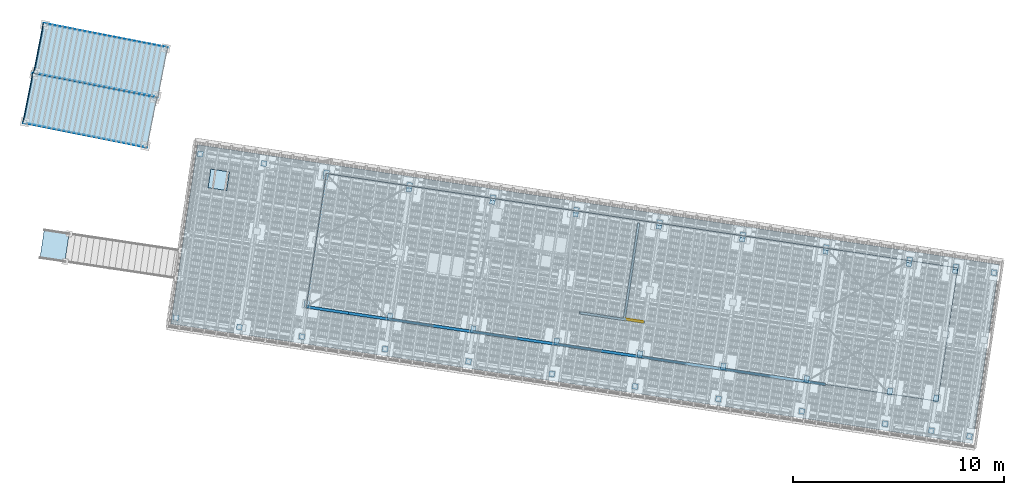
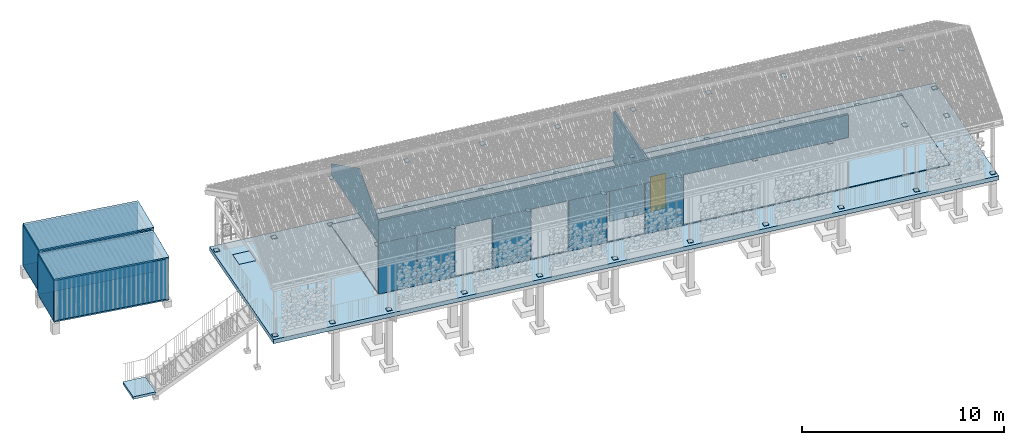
# One storey, part 121 of 131: 50 plates, 7 slabs, 7 walls, 1 door, 3 openings, 5 elements without a shape of their own.
"""IFC4 building model written with IfcOpenShell, lengths in metres."""

from ifc_helpers import new_model, si_unit, direction, frame, origin_with_axes, place, context, subcontext, project, spatial, polyline, outline, extrude, material, layer, layer_set, constituent, constituent_set, element, fill, aggregate, save


model = new_model("IFC4")

# Units and contexts
model_context = context("Model", 3, precision=1e-05, world=origin_with_axes(), true_north=direction((0.0, 1.0)))
body_context = subcontext(model_context, "Body", "Model", "MODEL_VIEW")
ifc_project = project(units=[si_unit("VOLUMEUNIT", "CUBIC_METRE"), si_unit("LENGTHUNIT", "METRE"), si_unit("AREAUNIT", "SQUARE_METRE")], contexts=[model_context])

# Site, building, storey
site_placement = place(None, origin_with_axes())
site = spatial("IfcSite", under=ifc_project, at=site_placement, Name="Lares · Rua das Mercês · artigo 4771")
building_placement = place(site_placement, frame((15.0, 9.7, 15.8), z_axis=(0.0, 0.0, 1.0), x_axis=(0.989015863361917, -0.147809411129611, 0.0)))
building = spatial("IfcBuilding", under=site, at=building_placement, Name="Casa Sobreposta")
storey_placement = place(building_placement, origin_with_axes())
storey = spatial("IfcBuildingStorey", under=building, at=storey_placement, Name="00 · Habitação e estacionamento", Elevation=15.8)

# Plates
ifc_material_1 = material(Name="Aço galvanizado / Stahl verzinkt", Category="steel")
plate_1_placement = place(storey_placement, frame((0.0, 0.0, 2.89), z_axis=(0.0, 0.0, 1.0), x_axis=(1.0, 0.0, 0.0)))
element("IfcPlate", 1, at=plate_1_placement, inside=storey, material=ifc_material_1, Name="Cobertura · ligação madeira aço", PredefinedType="SHEET", context=body_context, shape_type="SweptSolid", body=[
    extrude(outline(polyline([(0.12, -0.04), (0.12, 0.28), (-0.12, 0.28), (-0.12, -0.04), (0.12, -0.04)])), origin_with_axes(), (0.0, 0.0, 1.0), 0.012),
])
plate_2_placement = place(storey_placement, frame((0.0, 0.0, 2.89), z_axis=(0.0, 0.0, 1.0), x_axis=(1.0, 0.0, 0.0)))
element("IfcPlate", 2, at=plate_2_placement, inside=storey, material=ifc_material_1, Name="Cobertura · ligação madeira aço", PredefinedType="SHEET", context=body_context, shape_type="SweptSolid", body=[
    extrude(outline(polyline([(0.12, 6.12), (0.12, 6.44), (-0.12, 6.44), (-0.12, 6.12), (0.12, 6.12)])), origin_with_axes(), (0.0, 0.0, 1.0), 0.012),
])
plate_3_placement = place(storey_placement, frame((0.0, 0.0, 2.89), z_axis=(0.0, 0.0, 1.0), x_axis=(1.0, 0.0, 0.0)))
element("IfcPlate", 3, at=plate_3_placement, inside=storey, material=ifc_material_1, Name="Cobertura · ligação madeira aço", PredefinedType="SHEET", context=body_context, shape_type="SweptSolid", body=[
    extrude(outline(polyline([(4.12, -0.04), (4.12, 0.28), (3.88, 0.28), (3.88, -0.04), (4.12, -0.04)])), origin_with_axes(), (0.0, 0.0, 1.0), 0.012),
])
plate_4_placement = place(storey_placement, frame((0.0, 0.0, 2.89), z_axis=(0.0, 0.0, 1.0), x_axis=(1.0, 0.0, 0.0)))
element("IfcPlate", 4, at=plate_4_placement, inside=storey, material=ifc_material_1, Name="Cobertura · ligação madeira aço", PredefinedType="SHEET", context=body_context, shape_type="SweptSolid", body=[
    extrude(outline(polyline([(4.12, 6.12), (4.12, 6.44), (3.88, 6.44), (3.88, 6.12), (4.12, 6.12)])), origin_with_axes(), (0.0, 0.0, 1.0), 0.012),
])
plate_5_placement = place(storey_placement, frame((0.0, 0.0, 2.89), z_axis=(0.0, 0.0, 1.0), x_axis=(1.0, 0.0, 0.0)))
element("IfcPlate", 5, at=plate_5_placement, inside=storey, material=ifc_material_1, Name="Cobertura · ligação madeira aço", PredefinedType="SHEET", context=body_context, shape_type="SweptSolid", body=[
    extrude(outline(polyline([(8.12, -0.04), (8.12, 0.28), (7.88, 0.28), (7.88, -0.04), (8.12, -0.04)])), origin_with_axes(), (0.0, 0.0, 1.0), 0.012),
])
plate_6_placement = place(storey_placement, frame((0.0, 0.0, 2.89), z_axis=(0.0, 0.0, 1.0), x_axis=(1.0, 0.0, 0.0)))
element("IfcPlate", 6, at=plate_6_placement, inside=storey, material=ifc_material_1, Name="Cobertura · ligação madeira aço", PredefinedType="SHEET", context=body_context, shape_type="SweptSolid", body=[
    extrude(outline(polyline([(8.12, 6.12), (8.12, 6.44), (7.88, 6.44), (7.88, 6.12), (8.12, 6.12)])), origin_with_axes(), (0.0, 0.0, 1.0), 0.012),
])
plate_7_placement = place(storey_placement, frame((0.0, 0.0, 2.89), z_axis=(0.0, 0.0, 1.0), x_axis=(1.0, 0.0, 0.0)))
element("IfcPlate", 7, at=plate_7_placement, inside=storey, material=ifc_material_1, Name="Cobertura · ligação madeira aço", PredefinedType="SHEET", context=body_context, shape_type="SweptSolid", body=[
    extrude(outline(polyline([(12.12, -0.04), (12.12, 0.28), (11.88, 0.28), (11.88, -0.04), (12.12, -0.04)])), origin_with_axes(), (0.0, 0.0, 1.0), 0.012),
])
plate_8_placement = place(storey_placement, frame((0.0, 0.0, 2.89), z_axis=(0.0, 0.0, 1.0), x_axis=(1.0, 0.0, 0.0)))
element("IfcPlate", 8, at=plate_8_placement, inside=storey, material=ifc_material_1, Name="Cobertura · ligação madeira aço", PredefinedType="SHEET", context=body_context, shape_type="SweptSolid", body=[
    extrude(outline(polyline([(12.12, 6.12), (12.12, 6.44), (11.88, 6.44), (11.88, 6.12), (12.12, 6.12)])), origin_with_axes(), (0.0, 0.0, 1.0), 0.012),
])
plate_9_placement = place(storey_placement, frame((0.0, 0.0, 2.89), z_axis=(0.0, 0.0, 1.0), x_axis=(1.0, 0.0, 0.0)))
element("IfcPlate", 9, at=plate_9_placement, inside=storey, material=ifc_material_1, Name="Cobertura · ligação madeira aço", PredefinedType="SHEET", context=body_context, shape_type="SweptSolid", body=[
    extrude(outline(polyline([(16.12, -0.04), (16.12, 0.28), (15.88, 0.28), (15.88, -0.04), (16.12, -0.04)])), origin_with_axes(), (0.0, 0.0, 1.0), 0.012),
])
plate_10_placement = place(storey_placement, frame((0.0, 0.0, 2.89), z_axis=(0.0, 0.0, 1.0), x_axis=(1.0, 0.0, 0.0)))
element("IfcPlate", 10, at=plate_10_placement, inside=storey, material=ifc_material_1, Name="Cobertura · ligação madeira aço", PredefinedType="SHEET", context=body_context, shape_type="SweptSolid", body=[
    extrude(outline(polyline([(16.12, 6.12), (16.12, 6.44), (15.88, 6.44), (15.88, 6.12), (16.12, 6.12)])), origin_with_axes(), (0.0, 0.0, 1.0), 0.012),
])
plate_11_placement = place(storey_placement, frame((0.0, 0.0, 2.89), z_axis=(0.0, 0.0, 1.0), x_axis=(1.0, 0.0, 0.0)))
element("IfcPlate", 11, at=plate_11_placement, inside=storey, material=ifc_material_1, Name="Cobertura · ligação madeira aço", PredefinedType="SHEET", context=body_context, shape_type="SweptSolid", body=[
    extrude(outline(polyline([(20.12, -0.04), (20.12, 0.28), (19.88, 0.28), (19.88, -0.04), (20.12, -0.04)])), origin_with_axes(), (0.0, 0.0, 1.0), 0.012),
])
plate_12_placement = place(storey_placement, frame((0.0, 0.0, 2.89), z_axis=(0.0, 0.0, 1.0), x_axis=(1.0, 0.0, 0.0)))
element("IfcPlate", 12, at=plate_12_placement, inside=storey, material=ifc_material_1, Name="Cobertura · ligação madeira aço", PredefinedType="SHEET", context=body_context, shape_type="SweptSolid", body=[
    extrude(outline(polyline([(20.12, 6.12), (20.12, 6.44), (19.88, 6.44), (19.88, 6.12), (20.12, 6.12)])), origin_with_axes(), (0.0, 0.0, 1.0), 0.012),
])
plate_13_placement = place(storey_placement, frame((0.0, 0.0, 2.89), z_axis=(0.0, 0.0, 1.0), x_axis=(1.0, 0.0, 0.0)))
element("IfcPlate", 13, at=plate_13_placement, inside=storey, material=ifc_material_1, Name="Cobertura · ligação madeira aço", PredefinedType="SHEET", context=body_context, shape_type="SweptSolid", body=[
    extrude(outline(polyline([(24.12, -0.04), (24.12, 0.28), (23.88, 0.28), (23.88, -0.04), (24.12, -0.04)])), origin_with_axes(), (0.0, 0.0, 1.0), 0.012),
])
plate_14_placement = place(storey_placement, frame((0.0, 0.0, 2.89), z_axis=(0.0, 0.0, 1.0), x_axis=(1.0, 0.0, 0.0)))
element("IfcPlate", 14, at=plate_14_placement, inside=storey, material=ifc_material_1, Name="Cobertura · ligação madeira aço", PredefinedType="SHEET", context=body_context, shape_type="SweptSolid", body=[
    extrude(outline(polyline([(24.12, 6.12), (24.12, 6.44), (23.88, 6.44), (23.88, 6.12), (24.12, 6.12)])), origin_with_axes(), (0.0, 0.0, 1.0), 0.012),
])
plate_15_placement = place(storey_placement, frame((0.0, 0.0, 2.89), z_axis=(0.0, 0.0, 1.0), x_axis=(1.0, 0.0, 0.0)))
element("IfcPlate", 15, at=plate_15_placement, inside=storey, material=ifc_material_1, Name="Cobertura · ligação madeira aço", PredefinedType="SHEET", context=body_context, shape_type="SweptSolid", body=[
    extrude(outline(polyline([(28.12, -0.04), (28.12, 0.28), (27.88, 0.28), (27.88, -0.04), (28.12, -0.04)])), origin_with_axes(), (0.0, 0.0, 1.0), 0.012),
])
plate_16_placement = place(storey_placement, frame((0.0, 0.0, 2.89), z_axis=(0.0, 0.0, 1.0), x_axis=(1.0, 0.0, 0.0)))
element("IfcPlate", 16, at=plate_16_placement, inside=storey, material=ifc_material_1, Name="Cobertura · ligação madeira aço", PredefinedType="SHEET", context=body_context, shape_type="SweptSolid", body=[
    extrude(outline(polyline([(28.12, 6.12), (28.12, 6.44), (27.88, 6.44), (27.88, 6.12), (28.12, 6.12)])), origin_with_axes(), (0.0, 0.0, 1.0), 0.012),
])
plate_17_placement = place(storey_placement, frame((0.0, 0.0, 2.89), z_axis=(0.0, 0.0, 1.0), x_axis=(1.0, 0.0, 0.0)))
element("IfcPlate", 17, at=plate_17_placement, inside=storey, material=ifc_material_1, Name="Cobertura · ligação madeira aço", PredefinedType="SHEET", context=body_context, shape_type="SweptSolid", body=[
    extrude(outline(polyline([(30.34, -0.04), (30.34, 0.28), (30.1, 0.28), (30.1, -0.04), (30.34, -0.04)])), origin_with_axes(), (0.0, 0.0, 1.0), 0.012),
])
plate_18_placement = place(storey_placement, frame((0.0, 0.0, 2.89), z_axis=(0.0, 0.0, 1.0), x_axis=(1.0, 0.0, 0.0)))
element("IfcPlate", 18, at=plate_18_placement, inside=storey, material=ifc_material_1, Name="Cobertura · ligação madeira aço", PredefinedType="SHEET", context=body_context, shape_type="SweptSolid", body=[
    extrude(outline(polyline([(30.34, 6.12), (30.34, 6.44), (30.1, 6.44), (30.1, 6.12), (30.34, 6.12)])), origin_with_axes(), (0.0, 0.0, 1.0), 0.012),
])
ifc_material_2 = material(Name="Vidro / Normalglas", Category="glass")
plate_19_placement = place(storey_placement, frame((0.0, 0.0, 0.0), z_axis=(1.0, 0.0, 0.0), x_axis=(0.0, 1.0, 0.0)))
element("IfcPlate", 19, at=plate_19_placement, inside=storey, material=ifc_material_2, Name="Empena poente envidraçada", PredefinedType="SHEET", context=body_context, shape_type="SweptSolid", body=[
    extrude(outline(polyline([(0.0, 3.05), (6.4, 3.05), (6.4, 3.66641016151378), (2.55, 5.88920869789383), (0.0, 4.41696551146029), (0.0, 3.05)])), origin_with_axes(), (0.0, 0.0, 1.0), 0.02),
])

# Assembly, slabs, opening, plate
assembly_1_placement = place(storey_placement, origin_with_axes())
assembly_1 = element("IfcElementAssembly", 20, at=assembly_1_placement, inside=storey, Name="Pódio · terraço, casa térrea e cisterna", ObjectType="CISTERN_PODIUM", PredefinedType="USERDEFINED")
ifc_material_3 = material(Name="Betão armado / Stahlbeton", Category="concrete")
slab_1_placement = place(assembly_1_placement, frame((0.0, 0.0, -0.25), z_axis=(0.0, 0.0, 1.0), x_axis=(1.0, 0.0, 0.0)))
slab_1 = element("IfcSlab", 21, at=slab_1_placement, material=ifc_material_3, Name="Pódio · laje da casa 250 mm", PredefinedType="FLOOR", context=body_context, shape_type="SweptSolid", body=[
    extrude(outline(polyline([(30.32, 0.0), (30.32, 6.4), (0.0, 6.4), (0.0, 0.0), (30.32, 0.0)])), origin_with_axes(), (0.0, 0.0, 1.0), 0.25),
])
slab_2_placement = place(assembly_1_placement, frame((0.0, 0.0, -0.29), z_axis=(0.0, 0.0, 1.0), x_axis=(1.0, 0.0, 0.0)))
slab_2 = element("IfcSlab", 22, at=slab_2_placement, material=ifc_material_3, Name="Pódio · terraço e faixa de proteção sul", PredefinedType="FLOOR", context=body_context, shape_type="SweptSolid", body=[
    extrude(outline(polyline([(-6.25, -1.75), (-6.25, 6.85), (32.25, 6.85), (32.25, -1.75), (-6.25, -1.75)]), holes=[polyline([(30.32, 6.4), (0.0, 6.4), (0.0, 0.0), (30.32, 0.0), (30.32, 6.4)])]), origin_with_axes(), (0.0, 0.0, 1.0), 0.25),
])
opening_1_placement = place(slab_2_placement, frame((0.0, 0.0, -0.06), z_axis=(0.0, 0.0, 1.0), x_axis=(1.0, 0.0, 0.0)))
element("IfcOpeningElement", 23, at=opening_1_placement, cuts=slab_2, Name="Cisterna · abertura de inspeção", PredefinedType="OPENING", context=body_context, shape_type="SweptSolid", body=[
    extrude(outline(polyline([(-4.55, 4.9), (-4.55, 5.8), (-5.45, 5.8), (-5.45, 4.9), (-4.55, 4.9)])), origin_with_axes(), (0.0, 0.0, 1.0), 0.4),
])
plate_20_placement = place(assembly_1_placement, frame((0.0, 0.0, -0.085), z_axis=(0.0, 0.0, 1.0), x_axis=(1.0, 0.0, 0.0)))
plate_20 = element("IfcPlate", 24, at=plate_20_placement, material=ifc_material_1, Name="Cisterna · tampa estanque de inspeção", PredefinedType="SHEET", context=body_context, shape_type="SweptSolid", body=[
    extrude(outline(polyline([(-4.55, 4.9), (-4.55, 5.8), (-5.45, 5.8), (-5.45, 4.9), (-4.55, 4.9)])), origin_with_axes(), (0.0, 0.0, 1.0), 0.045),
])
aggregate(assembly_1, [slab_1, slab_2, plate_20])

# Stair, slab
stair_placement = place(storey_placement, origin_with_axes())
stair = element("IfcStair", 25, at=stair_placement, inside=storey, Name="Jardim · escada pela fachada poente", PredefinedType="STRAIGHT_RUN_STAIR")
slab_3_placement = place(stair_placement, frame((0.0, 0.0, -3.35), z_axis=(0.0, 0.0, 1.0), x_axis=(1.0, 0.0, 0.0)))
slab_3 = element("IfcSlab", 26, at=slab_3_placement, material=ifc_material_3, Name="Jardim · patamar poente", PredefinedType="LANDING", context=body_context, shape_type="SweptSolid", body=[
    extrude(outline(polyline([(-11.65, 0.4), (-11.65, 1.8), (-12.85, 1.8), (-12.85, 0.4), (-11.65, 0.4)])), origin_with_axes(), (0.0, 0.0, 1.0), 0.15),
])
aggregate(stair, [slab_3])

# Assembly, plates
assembly_2_placement = place(storey_placement, origin_with_axes())
assembly_2 = element("IfcElementAssembly", 27, at=assembly_2_placement, inside=storey, Name="Varanda coberta · continuação integral da cobertura", ObjectType="COVERED_PODIUM_BALCONY", PredefinedType="USERDEFINED")
plate_21_placement = place(assembly_2_placement, frame((0.0, 0.0, -0.04), z_axis=(0.0, 0.0, 1.0), x_axis=(1.0, 0.0, 0.0)))
plate_21 = element("IfcPlate", 28, at=plate_21_placement, material=ifc_material_1, Name="Varanda coberta · base metálica", PredefinedType="SHEET", context=body_context, shape_type="SweptSolid", body=[
    extrude(outline(polyline([(-5.92, -1.56), (-5.92, -1.3), (-6.18, -1.3), (-6.18, -1.56), (-5.92, -1.56)])), origin_with_axes(), (0.0, 0.0, 1.0), 0.025),
])
plate_22_placement = place(assembly_2_placement, frame((0.0, 0.0, -0.04), z_axis=(0.0, 0.0, 1.0), x_axis=(1.0, 0.0, 0.0)))
plate_22 = element("IfcPlate", 29, at=plate_22_placement, material=ifc_material_1, Name="Varanda coberta · base metálica", PredefinedType="SHEET", context=body_context, shape_type="SweptSolid", body=[
    extrude(outline(polyline([(-5.92, 6.3), (-5.92, 6.56), (-6.18, 6.56), (-6.18, 6.3), (-5.92, 6.3)])), origin_with_axes(), (0.0, 0.0, 1.0), 0.025),
])
plate_23_placement = place(assembly_2_placement, frame((0.0, 0.0, -0.04), z_axis=(0.0, 0.0, 1.0), x_axis=(1.0, 0.0, 0.0)))
plate_23 = element("IfcPlate", 30, at=plate_23_placement, material=ifc_material_1, Name="Varanda coberta · base metálica", PredefinedType="SHEET", context=body_context, shape_type="SweptSolid", body=[
    extrude(outline(polyline([(-2.87, -1.56), (-2.87, -1.3), (-3.13, -1.3), (-3.13, -1.56), (-2.87, -1.56)])), origin_with_axes(), (0.0, 0.0, 1.0), 0.025),
])
plate_24_placement = place(assembly_2_placement, frame((0.0, 0.0, -0.04), z_axis=(0.0, 0.0, 1.0), x_axis=(1.0, 0.0, 0.0)))
plate_24 = element("IfcPlate", 31, at=plate_24_placement, material=ifc_material_1, Name="Varanda coberta · base metálica", PredefinedType="SHEET", context=body_context, shape_type="SweptSolid", body=[
    extrude(outline(polyline([(-2.87, 6.3), (-2.87, 6.56), (-3.13, 6.56), (-3.13, 6.3), (-2.87, 6.3)])), origin_with_axes(), (0.0, 0.0, 1.0), 0.025),
])
plate_25_placement = place(assembly_2_placement, frame((0.0, 0.0, -0.04), z_axis=(0.0, 0.0, 1.0), x_axis=(1.0, 0.0, 0.0)))
plate_25 = element("IfcPlate", 32, at=plate_25_placement, material=ifc_material_1, Name="Varanda coberta · base metálica", PredefinedType="SHEET", context=body_context, shape_type="SweptSolid", body=[
    extrude(outline(polyline([(0.13, -1.56), (0.13, -1.3), (-0.13, -1.3), (-0.13, -1.56), (0.13, -1.56)])), origin_with_axes(), (0.0, 0.0, 1.0), 0.025),
])
plate_26_placement = place(assembly_2_placement, frame((0.0, 0.0, -0.04), z_axis=(0.0, 0.0, 1.0), x_axis=(1.0, 0.0, 0.0)))
plate_26 = element("IfcPlate", 33, at=plate_26_placement, material=ifc_material_1, Name="Varanda coberta · base metálica", PredefinedType="SHEET", context=body_context, shape_type="SweptSolid", body=[
    extrude(outline(polyline([(0.13, 6.3), (0.13, 6.56), (-0.13, 6.56), (-0.13, 6.3), (0.13, 6.3)])), origin_with_axes(), (0.0, 0.0, 1.0), 0.025),
])
plate_27_placement = place(assembly_2_placement, frame((0.0, 0.0, -0.04), z_axis=(0.0, 0.0, 1.0), x_axis=(1.0, 0.0, 0.0)))
plate_27 = element("IfcPlate", 34, at=plate_27_placement, material=ifc_material_1, Name="Varanda coberta · base metálica", PredefinedType="SHEET", context=body_context, shape_type="SweptSolid", body=[
    extrude(outline(polyline([(4.13, -1.56), (4.13, -1.3), (3.87, -1.3), (3.87, -1.56), (4.13, -1.56)])), origin_with_axes(), (0.0, 0.0, 1.0), 0.025),
])
plate_28_placement = place(assembly_2_placement, frame((0.0, 0.0, -0.04), z_axis=(0.0, 0.0, 1.0), x_axis=(1.0, 0.0, 0.0)))
plate_28 = element("IfcPlate", 35, at=plate_28_placement, material=ifc_material_1, Name="Varanda coberta · base metálica", PredefinedType="SHEET", context=body_context, shape_type="SweptSolid", body=[
    extrude(outline(polyline([(4.13, 6.3), (4.13, 6.56), (3.87, 6.56), (3.87, 6.3), (4.13, 6.3)])), origin_with_axes(), (0.0, 0.0, 1.0), 0.025),
])
plate_29_placement = place(assembly_2_placement, frame((0.0, 0.0, -0.04), z_axis=(0.0, 0.0, 1.0), x_axis=(1.0, 0.0, 0.0)))
plate_29 = element("IfcPlate", 36, at=plate_29_placement, material=ifc_material_1, Name="Varanda coberta · base metálica", PredefinedType="SHEET", context=body_context, shape_type="SweptSolid", body=[
    extrude(outline(polyline([(8.13, -1.56), (8.13, -1.3), (7.87, -1.3), (7.87, -1.56), (8.13, -1.56)])), origin_with_axes(), (0.0, 0.0, 1.0), 0.025),
])
plate_30_placement = place(assembly_2_placement, frame((0.0, 0.0, -0.04), z_axis=(0.0, 0.0, 1.0), x_axis=(1.0, 0.0, 0.0)))
plate_30 = element("IfcPlate", 37, at=plate_30_placement, material=ifc_material_1, Name="Varanda coberta · base metálica", PredefinedType="SHEET", context=body_context, shape_type="SweptSolid", body=[
    extrude(outline(polyline([(8.13, 6.3), (8.13, 6.56), (7.87, 6.56), (7.87, 6.3), (8.13, 6.3)])), origin_with_axes(), (0.0, 0.0, 1.0), 0.025),
])
plate_31_placement = place(assembly_2_placement, frame((0.0, 0.0, -0.04), z_axis=(0.0, 0.0, 1.0), x_axis=(1.0, 0.0, 0.0)))
plate_31 = element("IfcPlate", 38, at=plate_31_placement, material=ifc_material_1, Name="Varanda coberta · base metálica", PredefinedType="SHEET", context=body_context, shape_type="SweptSolid", body=[
    extrude(outline(polyline([(12.13, -1.56), (12.13, -1.3), (11.87, -1.3), (11.87, -1.56), (12.13, -1.56)])), origin_with_axes(), (0.0, 0.0, 1.0), 0.025),
])
plate_32_placement = place(assembly_2_placement, frame((0.0, 0.0, -0.04), z_axis=(0.0, 0.0, 1.0), x_axis=(1.0, 0.0, 0.0)))
plate_32 = element("IfcPlate", 39, at=plate_32_placement, material=ifc_material_1, Name="Varanda coberta · base metálica", PredefinedType="SHEET", context=body_context, shape_type="SweptSolid", body=[
    extrude(outline(polyline([(12.13, 6.3), (12.13, 6.56), (11.87, 6.56), (11.87, 6.3), (12.13, 6.3)])), origin_with_axes(), (0.0, 0.0, 1.0), 0.025),
])
plate_33_placement = place(assembly_2_placement, frame((0.0, 0.0, -0.04), z_axis=(0.0, 0.0, 1.0), x_axis=(1.0, 0.0, 0.0)))
plate_33 = element("IfcPlate", 40, at=plate_33_placement, material=ifc_material_1, Name="Varanda coberta · base metálica", PredefinedType="SHEET", context=body_context, shape_type="SweptSolid", body=[
    extrude(outline(polyline([(16.13, -1.56), (16.13, -1.3), (15.87, -1.3), (15.87, -1.56), (16.13, -1.56)])), origin_with_axes(), (0.0, 0.0, 1.0), 0.025),
])
plate_34_placement = place(assembly_2_placement, frame((0.0, 0.0, -0.04), z_axis=(0.0, 0.0, 1.0), x_axis=(1.0, 0.0, 0.0)))
plate_34 = element("IfcPlate", 41, at=plate_34_placement, material=ifc_material_1, Name="Varanda coberta · base metálica", PredefinedType="SHEET", context=body_context, shape_type="SweptSolid", body=[
    extrude(outline(polyline([(16.13, 6.3), (16.13, 6.56), (15.87, 6.56), (15.87, 6.3), (16.13, 6.3)])), origin_with_axes(), (0.0, 0.0, 1.0), 0.025),
])
plate_35_placement = place(assembly_2_placement, frame((0.0, 0.0, -0.04), z_axis=(0.0, 0.0, 1.0), x_axis=(1.0, 0.0, 0.0)))
plate_35 = element("IfcPlate", 42, at=plate_35_placement, material=ifc_material_1, Name="Varanda coberta · base metálica", PredefinedType="SHEET", context=body_context, shape_type="SweptSolid", body=[
    extrude(outline(polyline([(20.13, -1.56), (20.13, -1.3), (19.87, -1.3), (19.87, -1.56), (20.13, -1.56)])), origin_with_axes(), (0.0, 0.0, 1.0), 0.025),
])
plate_36_placement = place(assembly_2_placement, frame((0.0, 0.0, -0.04), z_axis=(0.0, 0.0, 1.0), x_axis=(1.0, 0.0, 0.0)))
plate_36 = element("IfcPlate", 43, at=plate_36_placement, material=ifc_material_1, Name="Varanda coberta · base metálica", PredefinedType="SHEET", context=body_context, shape_type="SweptSolid", body=[
    extrude(outline(polyline([(20.13, 6.3), (20.13, 6.56), (19.87, 6.56), (19.87, 6.3), (20.13, 6.3)])), origin_with_axes(), (0.0, 0.0, 1.0), 0.025),
])
plate_37_placement = place(assembly_2_placement, frame((0.0, 0.0, -0.04), z_axis=(0.0, 0.0, 1.0), x_axis=(1.0, 0.0, 0.0)))
plate_37 = element("IfcPlate", 44, at=plate_37_placement, material=ifc_material_1, Name="Varanda coberta · base metálica", PredefinedType="SHEET", context=body_context, shape_type="SweptSolid", body=[
    extrude(outline(polyline([(24.13, -1.56), (24.13, -1.3), (23.87, -1.3), (23.87, -1.56), (24.13, -1.56)])), origin_with_axes(), (0.0, 0.0, 1.0), 0.025),
])
plate_38_placement = place(assembly_2_placement, frame((0.0, 0.0, -0.04), z_axis=(0.0, 0.0, 1.0), x_axis=(1.0, 0.0, 0.0)))
plate_38 = element("IfcPlate", 45, at=plate_38_placement, material=ifc_material_1, Name="Varanda coberta · base metálica", PredefinedType="SHEET", context=body_context, shape_type="SweptSolid", body=[
    extrude(outline(polyline([(24.13, 6.3), (24.13, 6.56), (23.87, 6.56), (23.87, 6.3), (24.13, 6.3)])), origin_with_axes(), (0.0, 0.0, 1.0), 0.025),
])
plate_39_placement = place(assembly_2_placement, frame((0.0, 0.0, -0.04), z_axis=(0.0, 0.0, 1.0), x_axis=(1.0, 0.0, 0.0)))
plate_39 = element("IfcPlate", 46, at=plate_39_placement, material=ifc_material_1, Name="Varanda coberta · base metálica", PredefinedType="SHEET", context=body_context, shape_type="SweptSolid", body=[
    extrude(outline(polyline([(28.13, -1.56), (28.13, -1.3), (27.87, -1.3), (27.87, -1.56), (28.13, -1.56)])), origin_with_axes(), (0.0, 0.0, 1.0), 0.025),
])
plate_40_placement = place(assembly_2_placement, frame((0.0, 0.0, -0.04), z_axis=(0.0, 0.0, 1.0), x_axis=(1.0, 0.0, 0.0)))
plate_40 = element("IfcPlate", 47, at=plate_40_placement, material=ifc_material_1, Name="Varanda coberta · base metálica", PredefinedType="SHEET", context=body_context, shape_type="SweptSolid", body=[
    extrude(outline(polyline([(28.13, 6.3), (28.13, 6.56), (27.87, 6.56), (27.87, 6.3), (28.13, 6.3)])), origin_with_axes(), (0.0, 0.0, 1.0), 0.025),
])
plate_41_placement = place(assembly_2_placement, frame((0.0, 0.0, -0.04), z_axis=(0.0, 0.0, 1.0), x_axis=(1.0, 0.0, 0.0)))
plate_41 = element("IfcPlate", 48, at=plate_41_placement, material=ifc_material_1, Name="Varanda coberta · base metálica", PredefinedType="SHEET", context=body_context, shape_type="SweptSolid", body=[
    extrude(outline(polyline([(30.35, -1.56), (30.35, -1.3), (30.09, -1.3), (30.09, -1.56), (30.35, -1.56)])), origin_with_axes(), (0.0, 0.0, 1.0), 0.025),
])
plate_42_placement = place(assembly_2_placement, frame((0.0, 0.0, -0.04), z_axis=(0.0, 0.0, 1.0), x_axis=(1.0, 0.0, 0.0)))
plate_42 = element("IfcPlate", 49, at=plate_42_placement, material=ifc_material_1, Name="Varanda coberta · base metálica", PredefinedType="SHEET", context=body_context, shape_type="SweptSolid", body=[
    extrude(outline(polyline([(30.35, 6.3), (30.35, 6.56), (30.09, 6.56), (30.09, 6.3), (30.35, 6.3)])), origin_with_axes(), (0.0, 0.0, 1.0), 0.025),
])
plate_43_placement = place(assembly_2_placement, frame((0.0, 0.0, -0.04), z_axis=(0.0, 0.0, 1.0), x_axis=(1.0, 0.0, 0.0)))
plate_43 = element("IfcPlate", 50, at=plate_43_placement, material=ifc_material_1, Name="Varanda coberta · base metálica", PredefinedType="SHEET", context=body_context, shape_type="SweptSolid", body=[
    extrude(outline(polyline([(32.18, -1.56), (32.18, -1.3), (31.92, -1.3), (31.92, -1.56), (32.18, -1.56)])), origin_with_axes(), (0.0, 0.0, 1.0), 0.025),
])
plate_44_placement = place(assembly_2_placement, frame((0.0, 0.0, -0.04), z_axis=(0.0, 0.0, 1.0), x_axis=(1.0, 0.0, 0.0)))
plate_44 = element("IfcPlate", 51, at=plate_44_placement, material=ifc_material_1, Name="Varanda coberta · base metálica", PredefinedType="SHEET", context=body_context, shape_type="SweptSolid", body=[
    extrude(outline(polyline([(32.18, 6.3), (32.18, 6.56), (31.92, 6.56), (31.92, 6.3), (32.18, 6.3)])), origin_with_axes(), (0.0, 0.0, 1.0), 0.025),
])
aggregate(assembly_2, [plate_21, plate_22, plate_23, plate_24, plate_25, plate_26, plate_27, plate_28, plate_29, plate_30, plate_31, plate_32, plate_33, plate_34, plate_35, plate_36, plate_37, plate_38, plate_39, plate_40, plate_41, plate_42, plate_43, plate_44])

# Assembly, slabs, plates
assembly_3_placement = place(storey_placement, frame((-14.4335953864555, 9.04888612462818, 0.0), z_axis=(0.0, 0.0, 1.0), x_axis=(0.999032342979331, -0.0439815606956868, 0.0)))
assembly_3 = element("IfcElementAssembly", 52, at=assembly_3_placement, inside=storey, Name="Contentor existente 1 · 6 m", ObjectType="EXISTING_SHIPPING_CONTAINER", PredefinedType="USERDEFINED")
ifc_material_4 = material(Name="Contentor · pintura 1", Category="steel")
slab_4_placement = place(assembly_3_placement, frame((0.0, 0.0, -2.16314181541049), z_axis=(0.0, 0.0, 1.0), x_axis=(1.0, 0.0, 0.0)))
slab_4 = element("IfcSlab", 53, at=slab_4_placement, material=ifc_material_4, Name="Contentor · piso ou teto", PredefinedType="FLOOR", context=body_context, shape_type="SweptSolid", body=[
    extrude(outline(polyline([(6.0, 0.0), (6.0, 2.44), (0.0, 2.44), (0.0, 0.0), (6.0, 0.0)])), origin_with_axes(), (0.0, 0.0, 1.0), 0.08),
])
slab_5_placement = place(assembly_3_placement, frame((0.0, 0.0, 0.346858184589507), z_axis=(0.0, 0.0, 1.0), x_axis=(1.0, 0.0, 0.0)))
slab_5 = element("IfcSlab", 54, at=slab_5_placement, material=ifc_material_4, Name="Contentor · piso ou teto", PredefinedType="FLOOR", context=body_context, shape_type="SweptSolid", body=[
    extrude(outline(polyline([(6.0, 0.0), (6.0, 2.44), (0.0, 2.44), (0.0, 0.0), (6.0, 0.0)])), origin_with_axes(), (0.0, 0.0, 1.0), 0.08),
])
plate_45_placement = place(assembly_3_placement, frame((0.0, 0.0, -2.08314181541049), z_axis=(0.0, 0.0, 1.0), x_axis=(1.0, 0.0, 0.0)))
plate_45 = element("IfcPlate", 55, at=plate_45_placement, material=ifc_material_4, Name="Contentor · chapa lateral", context=body_context, shape_type="SweptSolid", body=[
    extrude(outline(polyline([(6.0, 0.0325), (6.0, 0.0075), (0.0, 0.0075), (0.0, 0.0325), (6.0, 0.0325)])), origin_with_axes(), (0.0, 0.0, 1.0), 2.43),
])
plate_46_placement = place(assembly_3_placement, frame((0.0, 0.0, -2.08314181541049), z_axis=(0.0, 0.0, 1.0), x_axis=(1.0, 0.0, 0.0)))
plate_46 = element("IfcPlate", 56, at=plate_46_placement, material=ifc_material_4, Name="Contentor · chapa lateral", context=body_context, shape_type="SweptSolid", body=[
    extrude(outline(polyline([(6.0, 2.4325), (6.0, 2.4075), (0.0, 2.4075), (0.0, 2.4325), (6.0, 2.4325)])), origin_with_axes(), (0.0, 0.0, 1.0), 2.43),
])
plate_47_placement = place(assembly_3_placement, frame((0.0, 0.0, -2.08314181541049), z_axis=(0.0, 0.0, 1.0), x_axis=(1.0, 0.0, 0.0)))
plate_47 = element("IfcPlate", 57, at=plate_47_placement, material=ifc_material_4, Name="Contentor · chapa de fundo", context=body_context, shape_type="SweptSolid", body=[
    extrude(outline(polyline([(-0.025, 2.44), (0.025, 2.44), (0.025, 0.0), (-0.025, 0.0), (-0.025, 2.44)])), origin_with_axes(), (0.0, 0.0, 1.0), 2.43),
])
aggregate(assembly_3, [slab_4, slab_5, plate_45, plate_46, plate_47])

assembly_4_placement = place(storey_placement, frame((-14.5932944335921, 6.63122214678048, 0.0), z_axis=(0.0, 0.0, 1.0), x_axis=(0.998832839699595, -0.0483007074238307, 0.0)))
assembly_4 = element("IfcElementAssembly", 58, at=assembly_4_placement, inside=storey, Name="Contentor existente 2 · 6 m", ObjectType="EXISTING_SHIPPING_CONTAINER", PredefinedType="USERDEFINED")
ifc_material_5 = material(Name="Contentor · pintura 2", Category="steel")
slab_6_placement = place(assembly_4_placement, frame((0.0, 0.0, -2.31875169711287), z_axis=(0.0, 0.0, 1.0), x_axis=(1.0, 0.0, 0.0)))
slab_6 = element("IfcSlab", 59, at=slab_6_placement, material=ifc_material_5, Name="Contentor · piso ou teto", PredefinedType="FLOOR", context=body_context, shape_type="SweptSolid", body=[
    extrude(outline(polyline([(6.0, 0.0), (6.0, 2.44), (0.0, 2.44), (0.0, 0.0), (6.0, 0.0)])), origin_with_axes(), (0.0, 0.0, 1.0), 0.08),
])
slab_7_placement = place(assembly_4_placement, frame((0.0, 0.0, 0.191248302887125), z_axis=(0.0, 0.0, 1.0), x_axis=(1.0, 0.0, 0.0)))
slab_7 = element("IfcSlab", 60, at=slab_7_placement, material=ifc_material_5, Name="Contentor · piso ou teto", PredefinedType="FLOOR", context=body_context, shape_type="SweptSolid", body=[
    extrude(outline(polyline([(6.0, 0.0), (6.0, 2.44), (0.0, 2.44), (0.0, 0.0), (6.0, 0.0)])), origin_with_axes(), (0.0, 0.0, 1.0), 0.08),
])
plate_48_placement = place(assembly_4_placement, frame((0.0, 0.0, -2.23875169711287), z_axis=(0.0, 0.0, 1.0), x_axis=(1.0, 0.0, 0.0)))
plate_48 = element("IfcPlate", 61, at=plate_48_placement, material=ifc_material_5, Name="Contentor · chapa lateral", context=body_context, shape_type="SweptSolid", body=[
    extrude(outline(polyline([(6.0, 0.0325), (6.0, 0.0075), (0.0, 0.0075), (0.0, 0.0325), (6.0, 0.0325)])), origin_with_axes(), (0.0, 0.0, 1.0), 2.43),
])
plate_49_placement = place(assembly_4_placement, frame((0.0, 0.0, -2.23875169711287), z_axis=(0.0, 0.0, 1.0), x_axis=(1.0, 0.0, 0.0)))
plate_49 = element("IfcPlate", 62, at=plate_49_placement, material=ifc_material_5, Name="Contentor · chapa lateral", context=body_context, shape_type="SweptSolid", body=[
    extrude(outline(polyline([(6.0, 2.4325), (6.0, 2.4075), (0.0, 2.4075), (0.0, 2.4325), (6.0, 2.4325)])), origin_with_axes(), (0.0, 0.0, 1.0), 2.43),
])
plate_50_placement = place(assembly_4_placement, frame((0.0, 0.0, -2.23875169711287), z_axis=(0.0, 0.0, 1.0), x_axis=(1.0, 0.0, 0.0)))
plate_50 = element("IfcPlate", 63, at=plate_50_placement, material=ifc_material_5, Name="Contentor · chapa de fundo", context=body_context, shape_type="SweptSolid", body=[
    extrude(outline(polyline([(-0.025, 2.44), (0.025, 2.44), (0.025, 0.0), (-0.025, 0.0), (-0.025, 2.44)])), origin_with_axes(), (0.0, 0.0, 1.0), 2.43),
])
aggregate(assembly_4, [slab_6, slab_7, plate_48, plate_49, plate_50])

# Wall, openings, door
ifc_material_6 = material(Name="OSB", Category="wood")
ifc_constituent_1 = constituent(ifc_material_6, Name="osb")
ifc_material_7 = material(Name="Lã mineral / Mineralwolle 2", Category="mineral wool")
ifc_constituent_2 = constituent(ifc_material_7, Name="wool")
ifc_constituent_set = constituent_set(constituents=[ifc_constituent_1, ifc_constituent_2], Name="OSB22 / lã mineral / OSB22")
wall_1_placement = place(storey_placement, origin_with_axes())
wall_1 = element("IfcWall", 64, at=wall_1_placement, inside=storey, material=ifc_constituent_set, Name="Divisória 3 · OSB 22 mm nas duas faces", context=body_context, shape_type="SweptSolid", body=[
    extrude(outline(polyline([(15.07, 6.27299999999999), (15.07, 1.70993390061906), (15.9846265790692, 1.71008560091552), (15.9846448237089, 1.60008560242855), (15.1199999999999, 1.59994219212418), (15.1199999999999, 1.57999999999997), (12.8699999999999, 1.57999999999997), (12.8699999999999, 1.68999999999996), (14.97, 1.68999999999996), (14.97, 6.27299999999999), (15.07, 6.27299999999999)]), holes=[polyline([(14.992, 1.66799999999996), (12.8919999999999, 1.66799999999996), (12.8919999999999, 1.60199999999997), (15.0979999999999, 1.60199999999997), (15.0979999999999, 1.6219385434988), (15.9626411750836, 1.62208195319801), (15.9626302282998, 1.68808195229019), (15.048, 1.68793025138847), (15.048, 6.25099999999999), (14.992, 6.25099999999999), (14.992, 1.66799999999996)])]), origin_with_axes(), (0.0, 0.0, 1.0), 3.05),
    extrude(outline(polyline([(14.992, 6.25099999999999), (15.048, 6.25099999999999), (15.048, 1.68793025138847), (15.9626302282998, 1.68808195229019), (15.9626411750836, 1.62208195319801), (15.0979999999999, 1.6219385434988), (15.0979999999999, 1.60199999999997), (12.8919999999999, 1.60199999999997), (12.8919999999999, 1.66799999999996), (14.992, 1.66799999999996), (14.992, 6.25099999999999)])), origin_with_axes(), (0.0, 0.0, 1.0), 3.05),
])
opening_2_placement = place(wall_1_placement, origin_with_axes())
opening_2 = element("IfcOpeningElement", 65, at=opening_2_placement, cuts=wall_1, PredefinedType="OPENING", context=body_context, shape_type="SweptSolid", body=[
    extrude(outline(polyline([(15.9146091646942, 1.81507398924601), (15.9146622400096, 1.49507399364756), (15.0845696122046, 1.49493631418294), (15.0845165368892, 1.8149363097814), (15.9146091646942, 1.81507398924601)])), origin_with_axes(), (0.0, 0.0, 1.0), 2.1),
])
opening_3_placement = place(wall_1_placement, origin_with_axes())
element("IfcOpeningElement", 66, at=opening_3_placement, cuts=wall_1, PredefinedType="OPENING", context=body_context, shape_type="SweptSolid", body=[
    extrude(outline(polyline([(12.9045964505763, 1.81507398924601), (12.9046495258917, 1.49507399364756), (12.0745568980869, 1.49493631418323), (12.0745038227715, 1.81493630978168), (12.9045964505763, 1.81507398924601)])), origin_with_axes(), (0.0, 0.0, 1.0), 2.1),
])
door_placement = place(storey_placement, origin_with_axes())
door = element("IfcDoor", 67, at=door_placement, inside=storey, material=ifc_material_6, Name="Porta interior 1", OperationType="SINGLE_SWING_LEFT", OverallHeight=2.1, OverallWidth=0.830092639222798, PredefinedType="DOOR", context=body_context, shape_type="SweptSolid", body=[
    extrude(outline(polyline([(15.9146327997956, 1.67257399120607), (15.9146386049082, 1.63757399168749), (15.0845459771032, 1.63743631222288), (15.0845401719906, 1.67243631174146), (15.9146327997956, 1.67257399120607)])), origin_with_axes(), (0.0, 0.0, 1.0), 2.1),
])
fill(opening_2, door)

# Walls
ifc_material_8 = material(Name="Aço pintado / Stahl lackiert", Category="steel")
ifc_layer_1 = layer(ifc_material_8, 0.005, Name="steel")
ifc_layer_2 = layer(ifc_material_7, 0.12, Name="wool")
ifc_layer_3 = layer(ifc_material_8, 0.00516, Name="steel")
ifc_layer_set_1 = layer_set([ifc_layer_1, ifc_layer_2, ifc_layer_3], Name="Casa DFL sandwich · 130.16 mm")
wall_2_placement = place(storey_placement, origin_with_axes())
element("IfcWall", 68, at=wall_2_placement, inside=storey, material=ifc_layer_set_1, Name="Painel opaco sul 0", context=body_context, shape_type="SweptSolid", body=[
    extrude(outline(polyline([(2.02133333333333, 0.06508), (2.02133333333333, -0.06508), (0.0, -0.06508), (0.0, 0.06508), (2.02133333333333, 0.06508)])), origin_with_axes(), (0.0, 0.0, 1.0), 3.05),
])
ifc_layer_4 = layer(ifc_material_8, 0.005, Name="steel")
ifc_layer_5 = layer(ifc_material_7, 0.12, Name="wool")
ifc_layer_6 = layer(ifc_material_8, 0.00516, Name="steel")
ifc_layer_set_2 = layer_set([ifc_layer_4, ifc_layer_5, ifc_layer_6], Name="Casa DFL sandwich · 130.16 mm")
wall_3_placement = place(storey_placement, origin_with_axes())
element("IfcWall", 69, at=wall_3_placement, inside=storey, material=ifc_layer_set_2, Name="Painel opaco sul 1", context=body_context, shape_type="SweptSolid", body=[
    extrude(outline(polyline([(4.04266666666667, 0.06508), (4.04266666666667, -0.06508), (2.02133333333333, -0.06508), (2.02133333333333, 0.06508), (4.04266666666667, 0.06508)])), origin_with_axes(), (0.0, 0.0, 1.0), 3.05),
])
ifc_layer_7 = layer(ifc_material_8, 0.005, Name="steel")
ifc_layer_8 = layer(ifc_material_7, 0.12, Name="wool")
ifc_layer_9 = layer(ifc_material_8, 0.00516, Name="steel")
ifc_layer_set_3 = layer_set([ifc_layer_7, ifc_layer_8, ifc_layer_9], Name="Casa DFL sandwich · 130.16 mm")
wall_4_placement = place(storey_placement, origin_with_axes())
element("IfcWall", 70, at=wall_4_placement, inside=storey, material=ifc_layer_set_3, Name="Painel opaco sul 3", context=body_context, shape_type="SweptSolid", body=[
    extrude(outline(polyline([(8.08533333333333, 0.06508), (8.08533333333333, -0.06508), (6.064, -0.06508), (6.064, 0.06508), (8.08533333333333, 0.06508)])), origin_with_axes(), (0.0, 0.0, 1.0), 3.05),
])
ifc_layer_10 = layer(ifc_material_8, 0.005, Name="steel")
ifc_layer_11 = layer(ifc_material_7, 0.12, Name="wool")
ifc_layer_12 = layer(ifc_material_8, 0.00516, Name="steel")
ifc_layer_set_4 = layer_set([ifc_layer_10, ifc_layer_11, ifc_layer_12], Name="Casa DFL sandwich · 130.16 mm")
wall_5_placement = place(storey_placement, origin_with_axes())
element("IfcWall", 71, at=wall_5_placement, inside=storey, material=ifc_layer_set_4, Name="Painel opaco sul 5", context=body_context, shape_type="SweptSolid", body=[
    extrude(outline(polyline([(12.128, 0.06508), (12.128, -0.06508), (10.1066666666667, -0.06508), (10.1066666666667, 0.06508), (12.128, 0.06508)])), origin_with_axes(), (0.0, 0.0, 1.0), 3.05),
])
ifc_layer_13 = layer(ifc_material_8, 0.005, Name="steel")
ifc_layer_14 = layer(ifc_material_7, 0.12, Name="wool")
ifc_layer_15 = layer(ifc_material_8, 0.00516, Name="steel")
ifc_layer_set_5 = layer_set([ifc_layer_13, ifc_layer_14, ifc_layer_15], Name="Casa DFL sandwich · 130.16 mm")
wall_6_placement = place(storey_placement, origin_with_axes())
element("IfcWall", 72, at=wall_6_placement, inside=storey, material=ifc_layer_set_5, Name="Painel opaco sul 7", context=body_context, shape_type="SweptSolid", body=[
    extrude(outline(polyline([(16.1706666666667, 0.06508), (16.1706666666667, -0.06508), (14.1493333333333, -0.06508), (14.1493333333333, 0.06508), (16.1706666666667, 0.06508)])), origin_with_axes(), (0.0, 0.0, 1.0), 3.05),
])
ifc_material_9 = material(Name="Madeira / Bauholz", Category="wood")
wall_7_placement = place(storey_placement, frame((0.0, 0.0, 3.05), z_axis=(0.0, 0.0, 1.0), x_axis=(1.0, 0.0, 0.0)))
element("IfcWall", 73, at=wall_7_placement, inside=storey, material=ifc_material_9, Name="Fachada · remate sob frechal", context=body_context, shape_type="SweptSolid", body=[
    extrude(outline(polyline([(24.92, 0.065), (24.92, -0.065), (0.0, -0.065), (0.0, 0.065), (24.92, 0.065)])), origin_with_axes(), (0.0, 0.0, 1.0), 1.36696551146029),
])

save(model, "model.ifc")
